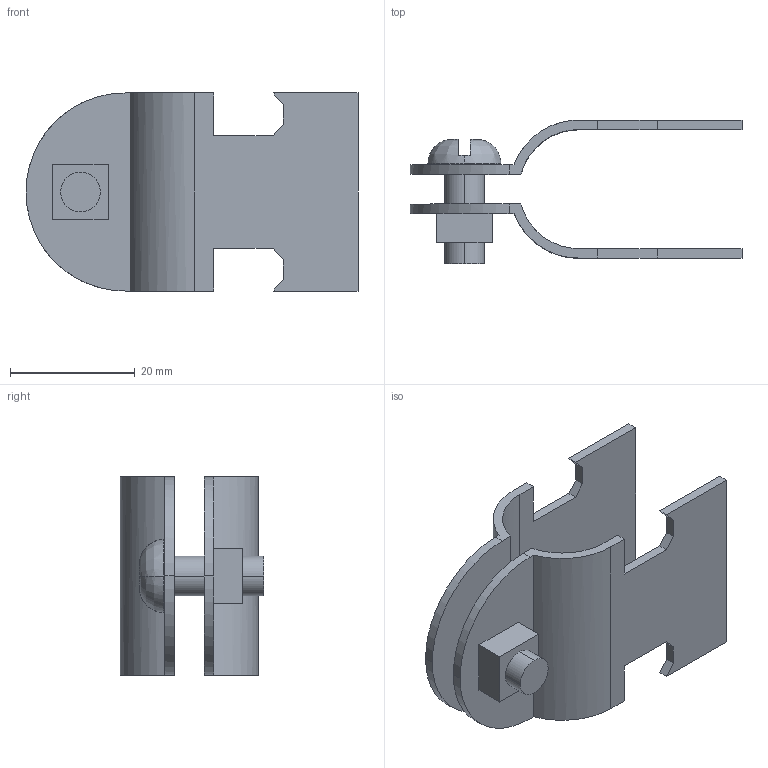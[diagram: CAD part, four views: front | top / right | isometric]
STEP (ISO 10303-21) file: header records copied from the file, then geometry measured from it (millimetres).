
FILE_DESCRIPTION(('TurboCAD Mac Pro'),'Build 980');
FILE_NAME('P2028.stp',' ',(''),(''),'ACIS Interop','IMSI','TurboCAD Mac Pro BY IMSI, INCORPORATED');
FILE_SCHEMA(('automotive_design'));
Length unit declared in the file: inch
Products named in the file (6): 1; 2; 3; 4; 5; 6
Bounding box: 53.2 x 23.02 x 31.74 mm (x, y, z)
Volume: 5700.2 mm3; surface area: 7802.4 mm2
Topology: 5 solids, 5 shells, 76 faces, 194 edges, 128 vertices
Faces by surface type: plane 52, bspline 24
Entity records: 3636 total; most frequent: CARTESIAN_POINT 1140, ORIENTED_EDGE 388, DIRECTION 266, EDGE_CURVE 194, LINE 142, VECTOR 142, VERTEX_POINT 128, STYLED_ITEM 89
